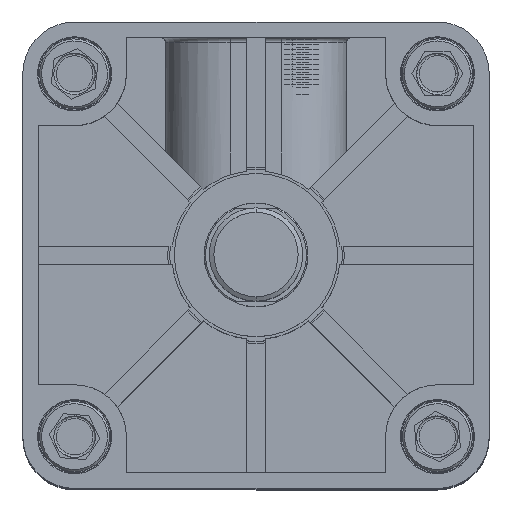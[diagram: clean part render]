
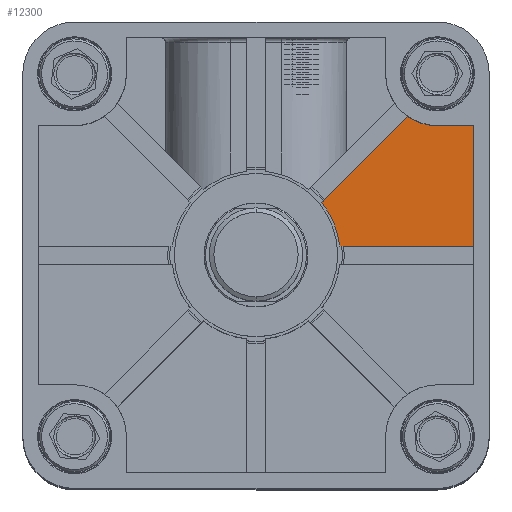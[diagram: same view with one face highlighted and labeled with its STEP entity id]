
A CAD part, top view. The second image highlights one B-rep face of the part: STEP entity #12300.
In plain terms, the highlighted planar face has unit normal (0, 0, 1).
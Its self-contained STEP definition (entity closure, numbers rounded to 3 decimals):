
#11269 = VERTEX_POINT ( 'NONE', #24870 ) ;
#11271 = EDGE_CURVE ( 'NONE', #11272, #11269, #24869, .T. ) ;
#11272 = VERTEX_POINT ( 'NONE', #24864 ) ;
#12284 = EDGE_CURVE ( 'NONE', #12323, #12285, #26695, .T. ) ;
#12285 = VERTEX_POINT ( 'NONE', #26691 ) ;
#12286 = ORIENTED_EDGE ( 'NONE', *, *, #12287, .T. ) ;
#12287 = EDGE_CURVE ( 'NONE', #12285, #12305, #26690, .T. ) ;
#12297 = EDGE_CURVE ( 'NONE', #12323, #11269, #26749, .T. ) ;
#12300 = ADVANCED_FACE ( 'NONE', ( #26745 ), #26744, .T. ) ;
#12301 = EDGE_LOOP ( 'NONE', ( #12302, #12307, #12309, #12372, #12373, #12286 ) ) ;
#12302 = ORIENTED_EDGE ( 'NONE', *, *, #12303, .T. ) ;
#12303 = EDGE_CURVE ( 'NONE', #12305, #12306, #26739, .T. ) ;
#12305 = VERTEX_POINT ( 'NONE', #26734 ) ;
#12306 = VERTEX_POINT ( 'NONE', #26733 ) ;
#12307 = ORIENTED_EDGE ( 'NONE', *, *, #12308, .F. ) ;
#12308 = EDGE_CURVE ( 'NONE', #11272, #12306, #26732, .T. ) ;
#12309 = ORIENTED_EDGE ( 'NONE', *, *, #11271, .T. ) ;
#12323 = VERTEX_POINT ( 'NONE', #26775 ) ;
#12372 = ORIENTED_EDGE ( 'NONE', *, *, #12297, .F. ) ;
#12373 = ORIENTED_EDGE ( 'NONE', *, *, #12284, .T. ) ;
#24864 = CARTESIAN_POINT ( 'NONE',  ( 25.322, 20.372, 13. ) ) ;
#24865 = DIRECTION ( 'NONE',  ( 1., 0., 0. ) ) ;
#24866 = DIRECTION ( 'NONE',  ( 0., 0., -1. ) ) ;
#24867 = CARTESIAN_POINT ( 'NONE',  ( 0., 0., 13. ) ) ;
#24868 = AXIS2_PLACEMENT_3D ( 'NONE', #24867, #24866, #24865 ) ;
#24869 = CIRCLE ( 'NONE', #24868, 32.5 ) ;
#24870 = CARTESIAN_POINT ( 'NONE',  ( 32.311, 3.5, 13. ) ) ;
#26687 = DIRECTION ( 'NONE',  ( -1., 0., 0. ) ) ;
#26688 = VECTOR ( 'NONE', #26687, 1000. ) ;
#26689 = CARTESIAN_POINT ( 'NONE',  ( 84., 50., 13. ) ) ;
#26690 = LINE ( 'NONE', #26689, #26688 ) ;
#26691 = CARTESIAN_POINT ( 'NONE',  ( 84., 50., 13. ) ) ;
#26692 = DIRECTION ( 'NONE',  ( 0., 1., 0. ) ) ;
#26693 = VECTOR ( 'NONE', #26692, 1000. ) ;
#26694 = CARTESIAN_POINT ( 'NONE',  ( 84., -50., 13. ) ) ;
#26695 = LINE ( 'NONE', #26694, #26693 ) ;
#26729 = DIRECTION ( 'NONE',  ( 0.707, 0.707, 0. ) ) ;
#26730 = VECTOR ( 'NONE', #26729, 1000. ) ;
#26731 = CARTESIAN_POINT ( 'NONE',  ( 61.872, 56.922, 13. ) ) ;
#26732 = LINE ( 'NONE', #26731, #26730 ) ;
#26733 = CARTESIAN_POINT ( 'NONE',  ( 58.551, 53.601, 13. ) ) ;
#26734 = CARTESIAN_POINT ( 'NONE',  ( 70., 50., 13. ) ) ;
#26735 = DIRECTION ( 'NONE',  ( -1., 0., 0. ) ) ;
#26736 = DIRECTION ( 'NONE',  ( 0., 0., -1. ) ) ;
#26737 = CARTESIAN_POINT ( 'NONE',  ( 70., 70., 13. ) ) ;
#26738 = AXIS2_PLACEMENT_3D ( 'NONE', #26737, #26736, #26735 ) ;
#26739 = CIRCLE ( 'NONE', #26738, 20. ) ;
#26740 = DIRECTION ( 'NONE',  ( 1., 0., 0. ) ) ;
#26741 = DIRECTION ( 'NONE',  ( 0., 0., 1. ) ) ;
#26742 = CARTESIAN_POINT ( 'NONE',  ( -70., 70., 13. ) ) ;
#26743 = AXIS2_PLACEMENT_3D ( 'NONE', #26742, #26741, #26740 ) ;
#26744 = PLANE ( 'NONE',  #26743 ) ;
#26745 = FACE_OUTER_BOUND ( 'NONE', #12301, .T. ) ;
#26746 = DIRECTION ( 'NONE',  ( -1., 0., 0. ) ) ;
#26747 = VECTOR ( 'NONE', #26746, 1000. ) ;
#26748 = CARTESIAN_POINT ( 'NONE',  ( 84., 3.5, 13. ) ) ;
#26749 = LINE ( 'NONE', #26748, #26747 ) ;
#26775 = CARTESIAN_POINT ( 'NONE',  ( 84., 3.5, 13. ) ) ;
